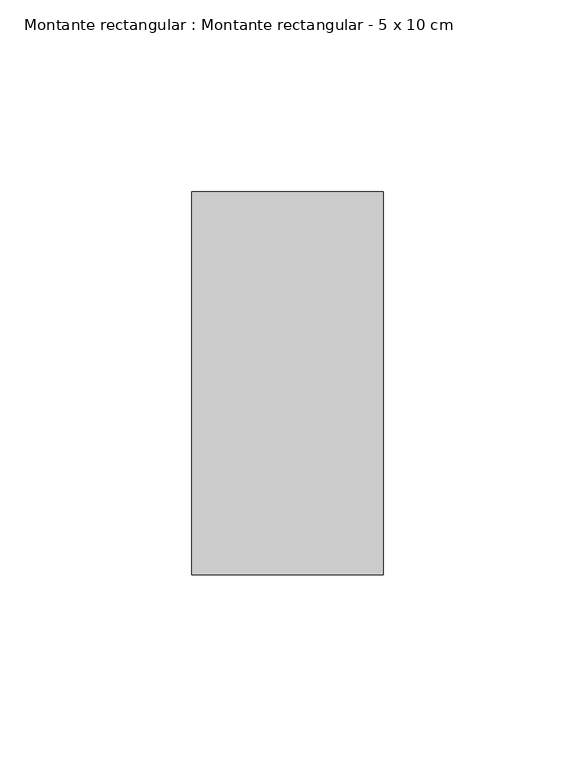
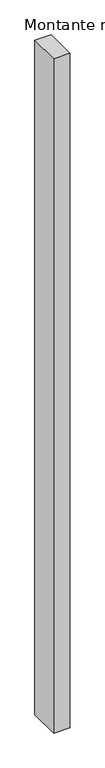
"""IFC4 building model written with IfcOpenShell, lengths in millimetres: member geometry, Montante rectangular : Montante rectangular - 5 x 10 cm."""

from ifc_helpers import new_model, si_unit, frame, origin, place, context, project, spatial, polyline, outline, extrude, source, transform, mapped, element, save


def montante_rectangular_montante_rectangular_5_x_10_cm_99f3dc7d(model_context):
    return source(origin(), model_context, "Body", "SweptSolid", [
        extrude(outline(polyline([(25.0, 50.0), (25.0, -50.0), (-25.0, -50.0), (-25.0, 50.0), (25.0, 50.0)])), frame((0.0, 0.0, -2200.0), z_axis=(0.0, 0.0, 1.0), x_axis=(1.0, 0.0, 0.0)), (0.0, 0.0, 1.0), 2200.0),
    ])


if __name__ == "__main__":
    model = new_model("IFC4")
    model_context = context("Model", 3, world=origin())
    ifc_project = project(units=[si_unit("LENGTHUNIT", "METRE", prefix="MILLI")], contexts=[model_context])
    site = spatial("IfcSite", under=ifc_project)
    building = spatial("IfcBuilding", under=site)
    placement = place(None, origin())
    montante_rectangular_montante_rectangular_5_x_10_cm_shape = montante_rectangular_montante_rectangular_5_x_10_cm_99f3dc7d(model_context)
    element("IfcMember", 1, ObjectType="Montante rectangular : Montante rectangular - 5 x 10 cm", at=placement, inside=building, context=model_context, shape_type="MappedRepresentation", body=[
        mapped(montante_rectangular_montante_rectangular_5_x_10_cm_shape, transform((0.0, 0.0, 0.0), x_axis=(1.0, 0.0, 0.0), y_axis=(0.0, 1.0, 0.0), z_axis=(0.0, 0.0, 1.0))),
    ])
    save(model, "model.ifc")
